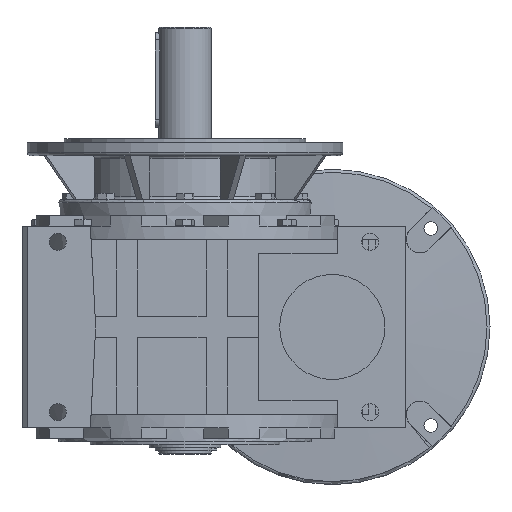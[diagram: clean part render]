
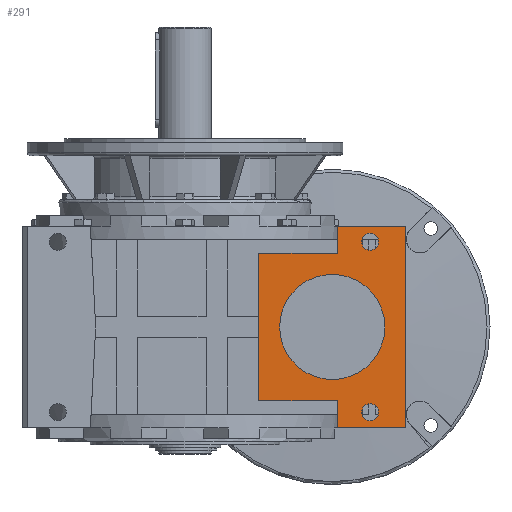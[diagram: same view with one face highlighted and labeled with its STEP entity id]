
A CAD part, left-side view. The second image highlights one B-rep face of the part: STEP entity #291.
In plain terms, the highlighted planar face has unit normal (-1, 0, 0).
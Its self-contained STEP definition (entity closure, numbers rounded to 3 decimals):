
#250 = LINE ( 'NONE', #12618, #529 ) ;
#291 = ADVANCED_FACE ( 'NONE', ( #33731, #36160, #31055, #34744 ), #35665, .F. ) ;
#529 = VECTOR ( 'NONE', #6530, 1000. ) ;
#560 = VERTEX_POINT ( 'NONE', #34109 ) ;
#608 = EDGE_CURVE ( 'NONE', #26465, #26465, #28528, .T. ) ;
#1313 = VERTEX_POINT ( 'NONE', #32863 ) ;
#1864 = EDGE_LOOP ( 'NONE', ( #10655 ) ) ;
#1928 = EDGE_CURVE ( 'NONE', #14891, #25607, #8737, .T. ) ;
#2037 = ORIENTED_EDGE ( 'NONE', *, *, #29736, .T. ) ;
#2137 = DIRECTION ( 'NONE',  ( -1., 0., 0. ) ) ;
#2314 = ORIENTED_EDGE ( 'NONE', *, *, #12304, .F. ) ;
#2877 = EDGE_CURVE ( 'NONE', #25823, #25823, #32634, .T. ) ;
#3858 = VERTEX_POINT ( 'NONE', #27054 ) ;
#4663 = VECTOR ( 'NONE', #32208, 1000. ) ;
#5349 = DIRECTION ( 'NONE',  ( 0., 1., 0. ) ) ;
#6175 = EDGE_LOOP ( 'NONE', ( #37865 ) ) ;
#6530 = DIRECTION ( 'NONE',  ( 0., 0., 1. ) ) ;
#6711 = CARTESIAN_POINT ( 'NONE',  ( -152.5, -210., 96. ) ) ;
#7219 = CARTESIAN_POINT ( 'NONE',  ( -152.5, -168., 81. ) ) ;
#7274 = CARTESIAN_POINT ( 'NONE',  ( -152.5, -210., 70. ) ) ;
#7587 = ORIENTED_EDGE ( 'NONE', *, *, #1928, .T. ) ;
#7767 = VERTEX_POINT ( 'NONE', #10060 ) ;
#8392 = LINE ( 'NONE', #7274, #33080 ) ;
#8517 = CARTESIAN_POINT ( 'NONE',  ( -152.5, -140., 0. ) ) ;
#8615 = VECTOR ( 'NONE', #24566, 1000. ) ;
#8737 = LINE ( 'NONE', #6711, #8615 ) ;
#8767 = CARTESIAN_POINT ( 'NONE',  ( -152.5, -210., -96. ) ) ;
#9120 = AXIS2_PLACEMENT_3D ( 'NONE', #27141, #30045, #12467 ) ;
#10060 = CARTESIAN_POINT ( 'NONE',  ( -152.5, -70., 70. ) ) ;
#10655 = ORIENTED_EDGE ( 'NONE', *, *, #2877, .F. ) ;
#11017 = CARTESIAN_POINT ( 'NONE',  ( -152.5, -176., 81. ) ) ;
#11590 = DIRECTION ( 'NONE',  ( 0., 0., -1. ) ) ;
#11648 = VECTOR ( 'NONE', #32235, 1000. ) ;
#12304 = EDGE_CURVE ( 'NONE', #27168, #1313, #24040, .T. ) ;
#12395 = CARTESIAN_POINT ( 'NONE',  ( -152.5, -145., -96. ) ) ;
#12467 = DIRECTION ( 'NONE',  ( 0., 0., 1. ) ) ;
#12526 = CARTESIAN_POINT ( 'NONE',  ( -152.5, -145., -70. ) ) ;
#12618 = CARTESIAN_POINT ( 'NONE',  ( -152.5, -70., -70. ) ) ;
#12989 = EDGE_CURVE ( 'NONE', #23345, #23345, #19847, .T. ) ;
#13960 = DIRECTION ( 'NONE',  ( 0., 1., 0. ) ) ;
#14427 = CARTESIAN_POINT ( 'NONE',  ( -152.5, -145., -96. ) ) ;
#14891 = VERTEX_POINT ( 'NONE', #18270 ) ;
#15347 = DIRECTION ( 'NONE',  ( 0., 0., 1. ) ) ;
#16332 = AXIS2_PLACEMENT_3D ( 'NONE', #11017, #31514, #13960 ) ;
#16383 = ORIENTED_EDGE ( 'NONE', *, *, #28176, .T. ) ;
#16806 = AXIS2_PLACEMENT_3D ( 'NONE', #20325, #2137, #23311 ) ;
#17131 = CARTESIAN_POINT ( 'NONE',  ( -152.5, -168., -81. ) ) ;
#17335 = ORIENTED_EDGE ( 'NONE', *, *, #22154, .F. ) ;
#17375 = CARTESIAN_POINT ( 'NONE',  ( -152.5, -210., -96. ) ) ;
#17624 = AXIS2_PLACEMENT_3D ( 'NONE', #8517, #29188, #11590 ) ;
#18270 = CARTESIAN_POINT ( 'NONE',  ( -152.5, -210., 96. ) ) ;
#19847 = CIRCLE ( 'NONE', #16806, 8. ) ;
#19958 = EDGE_CURVE ( 'NONE', #560, #7767, #250, .T. ) ;
#20325 = CARTESIAN_POINT ( 'NONE',  ( -152.5, -176., -81. ) ) ;
#22154 = EDGE_CURVE ( 'NONE', #30191, #560, #30322, .T. ) ;
#22718 = LINE ( 'NONE', #12395, #26907 ) ;
#23144 = ORIENTED_EDGE ( 'NONE', *, *, #27755, .F. ) ;
#23311 = DIRECTION ( 'NONE',  ( 0., 1., 0. ) ) ;
#23345 = VERTEX_POINT ( 'NONE', #17131 ) ;
#23638 = EDGE_LOOP ( 'NONE', ( #23914 ) ) ;
#23725 = VECTOR ( 'NONE', #5349, 1000. ) ;
#23914 = ORIENTED_EDGE ( 'NONE', *, *, #12989, .F. ) ;
#24040 = LINE ( 'NONE', #34742, #23725 ) ;
#24566 = DIRECTION ( 'NONE',  ( 0., 1., 0. ) ) ;
#25095 = ORIENTED_EDGE ( 'NONE', *, *, #19958, .F. ) ;
#25607 = VERTEX_POINT ( 'NONE', #31516 ) ;
#25823 = VERTEX_POINT ( 'NONE', #36703 ) ;
#26134 = EDGE_CURVE ( 'NONE', #1313, #30191, #22718, .T. ) ;
#26465 = VERTEX_POINT ( 'NONE', #7219 ) ;
#26907 = VECTOR ( 'NONE', #15347, 1000. ) ;
#27054 = CARTESIAN_POINT ( 'NONE',  ( -152.5, -145., 70. ) ) ;
#27141 = CARTESIAN_POINT ( 'NONE',  ( -152.5, -210., -96. ) ) ;
#27168 = VERTEX_POINT ( 'NONE', #8767 ) ;
#27755 = EDGE_CURVE ( 'NONE', #3858, #25607, #36163, .T. ) ;
#27994 = DIRECTION ( 'NONE',  ( 0., 1., 0. ) ) ;
#28133 = CARTESIAN_POINT ( 'NONE',  ( -152.5, -210., -70. ) ) ;
#28176 = EDGE_CURVE ( 'NONE', #27168, #14891, #28659, .T. ) ;
#28528 = CIRCLE ( 'NONE', #16332, 8. ) ;
#28659 = LINE ( 'NONE', #17375, #4663 ) ;
#29188 = DIRECTION ( 'NONE',  ( -1., 0., 0. ) ) ;
#29736 = EDGE_CURVE ( 'NONE', #3858, #7767, #8392, .T. ) ;
#30045 = DIRECTION ( 'NONE',  ( 1., 0., 0. ) ) ;
#30099 = VECTOR ( 'NONE', #31001, 1000. ) ;
#30191 = VERTEX_POINT ( 'NONE', #12526 ) ;
#30322 = LINE ( 'NONE', #28133, #30099 ) ;
#30804 = ORIENTED_EDGE ( 'NONE', *, *, #26134, .F. ) ;
#31001 = DIRECTION ( 'NONE',  ( 0., 1., 0. ) ) ;
#31055 = FACE_BOUND ( 'NONE', #1864, .T. ) ;
#31514 = DIRECTION ( 'NONE',  ( -1., 0., 0. ) ) ;
#31516 = CARTESIAN_POINT ( 'NONE',  ( -152.5, -145., 96. ) ) ;
#32208 = DIRECTION ( 'NONE',  ( 0., 0., 1. ) ) ;
#32235 = DIRECTION ( 'NONE',  ( 0., 0., 1. ) ) ;
#32634 = CIRCLE ( 'NONE', #17624, 50. ) ;
#32863 = CARTESIAN_POINT ( 'NONE',  ( -152.5, -145., -96. ) ) ;
#33080 = VECTOR ( 'NONE', #27994, 1000. ) ;
#33731 = FACE_BOUND ( 'NONE', #23638, .T. ) ;
#34109 = CARTESIAN_POINT ( 'NONE',  ( -152.5, -70., -70. ) ) ;
#34742 = CARTESIAN_POINT ( 'NONE',  ( -152.5, -210., -96. ) ) ;
#34744 = FACE_OUTER_BOUND ( 'NONE', #38210, .T. ) ;
#35665 = PLANE ( 'NONE',  #9120 ) ;
#36160 = FACE_BOUND ( 'NONE', #6175, .T. ) ;
#36163 = LINE ( 'NONE', #14427, #11648 ) ;
#36703 = CARTESIAN_POINT ( 'NONE',  ( -152.5, -140., -50. ) ) ;
#37865 = ORIENTED_EDGE ( 'NONE', *, *, #608, .F. ) ;
#38210 = EDGE_LOOP ( 'NONE', ( #23144, #2037, #25095, #17335, #30804, #2314, #16383, #7587 ) ) ;
